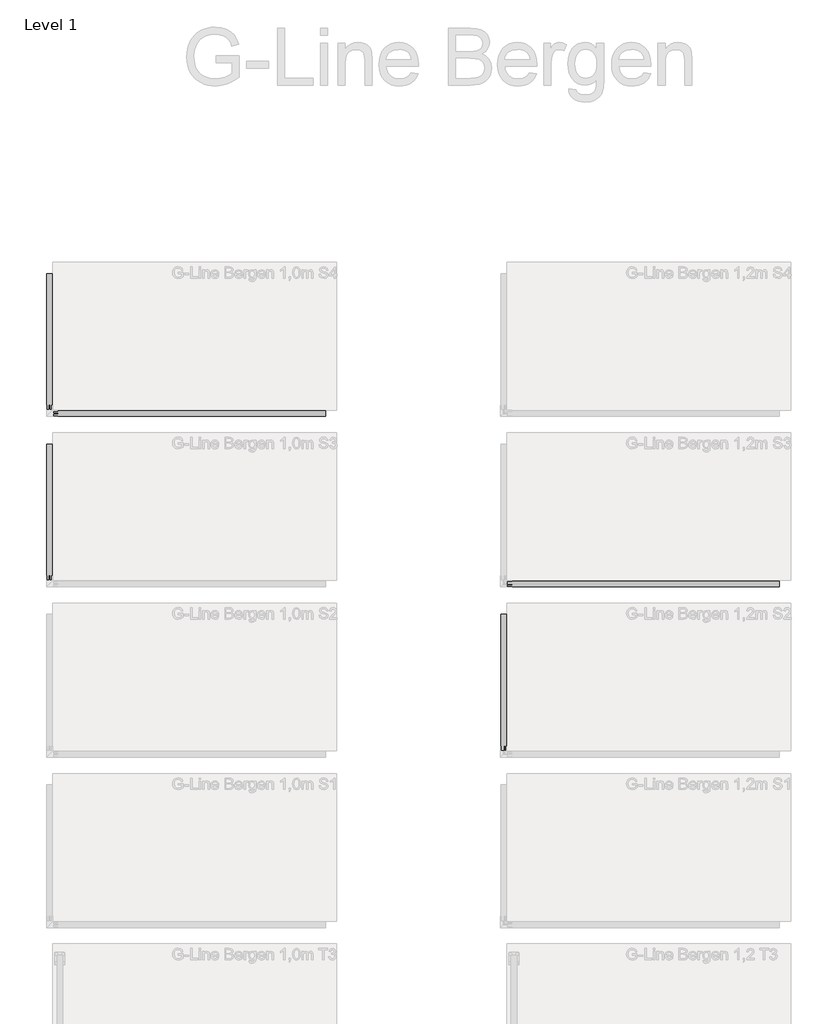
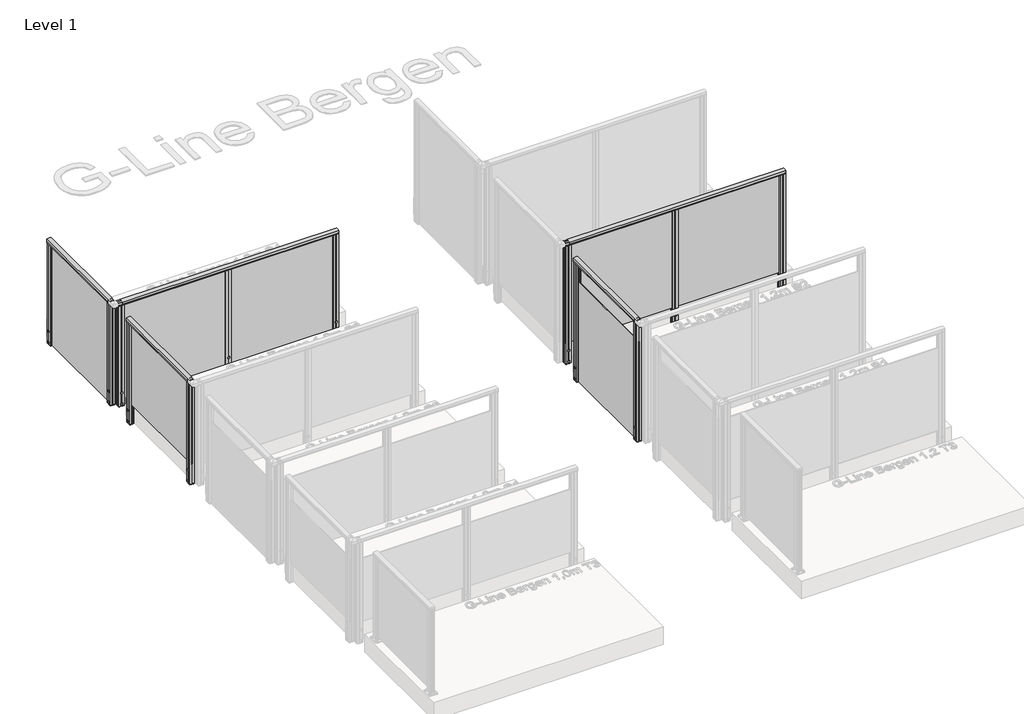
# One storey, part 28 of 66: 5 railings.
"""IFC4 building model written with IfcOpenShell, lengths in millimetres."""

from ifc_helpers import new_model, si_unit, point, frame, frame_2d, origin, place, context, project, spatial, polyline, circle_curve, trimmed, segment, composite_curve, outline, extrude, element, save

model = new_model("IFC4")

# Units and contexts
model_context = context("Model", 3, world=origin())
ifc_project = project(units=[si_unit("LENGTHUNIT", "METRE", prefix="MILLI")], contexts=[model_context])

# Site, building, storey
site = spatial("IfcSite", under=ifc_project)
building = spatial("IfcBuilding", under=site)
storey = spatial("IfcBuildingStorey", under=building, Name="Level 1", Elevation=0.0)

# Railings
placement = place(None, origin())
element("IfcRailing", 1, ObjectType="G-Line Bergen 1,0m S3", at=placement, inside=storey, context=model_context, shape_type="SweptSolid", body=[
    extrude(outline(composite_curve([segment(trimmed(circle_curve(frame_2d((942.6785502, 4465.8109342)), 57.3235687), [point((994.1390059, 4491.0658945))], [point((994.1342258, 4440.5462362))], False, "CARTESIAN"), True, "CONTINUOUS"), segment(polyline([(994.1342258, 4440.5462362), (967.0235023, 4440.5462362), (966.4415706, 4441.128168), (965.8194895, 4440.5060869), (957.2498847, 4440.5060869), (957.2498847, 4442.3110398), (980.4998829, 4442.3110398), (980.4998829, 4489.306086), (957.2498847, 4489.306086), (957.2498847, 4491.0658945), (965.9694895, 4491.0658945), (966.5842725, 4490.4511115), (967.1990555, 4491.0658945), (994.1390059, 4491.0658945)]), True, "CONTINUOUS")], self_intersect=False)), frame((0.0, 1523.8815979, 0.0), z_axis=(0.0, 1.0, 0.0), x_axis=(0.0, 0.0, 1.0)), (0.0, 0.0, 1.0), 1195.0),
    extrude(outline(polyline([(4462.1463105, 2718.8815979), (4470.9063105, 2718.8815979), (4470.9063105, 1523.8815979), (4462.1463105, 1523.8815979), (4462.1463105, 2718.8815979)])), frame((0.0, 0.0, 28.0), z_axis=(0.0, 0.0, 1.0), x_axis=(1.0, 0.0, 0.0)), (0.0, 0.0, 1.0), 952.0),
    extrude(outline(polyline([(4470.8721725, 1523.883191), (4470.8747497, 1541.3831908), (4462.1147498, 1541.3844809), (4462.1121726, 1523.8844811), (4444.0573652, 1523.88714), (4444.0616532, 1553.004127), (4444.9400753, 1553.8822904), (4444.021743, 1554.9201583), (4444.0260089, 1583.8871452), (4462.1210087, 1583.8844804), (4462.1184315, 1566.3844806), (4470.8784314, 1566.3831905), (4470.8810086, 1583.8831903), (4488.9859597, 1583.880524), (4488.9816865, 1554.8640485), (4487.9932969, 1553.87595), (4489.0214382, 1552.8475058), (4489.0171723, 1523.8805188), (4470.8721725, 1523.883191)])), frame((0.0, 0.0, -202.0233958), z_axis=(0.0, 0.0, 1.0), x_axis=(1.0, 0.0, 0.0)), (0.0, 0.0, 1.0), 2.0),
    extrude(outline(composite_curve([segment(trimmed(circle_curve(frame_2d((0.0, 12.0)), 12.0), [point((0.0, 23.9999999))], [point((0.0, 0.0))], False, "CARTESIAN"), True, "CONTINUOUS"), segment(trimmed(circle_curve(frame_2d((0.0, 12.0)), 12.0), [point((0.0, 0.0))], [point((0.0, 23.9999999))], False, "CARTESIAN"), True, "CONTINUOUS")], self_intersect=False)), frame((4444.0668454, 1565.8906355, -175.0), z_axis=(-0.9999999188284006, 0.0004029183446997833, 0.0), x_axis=(0.0, 0.0, -1.0)), (0.0, 0.0, 1.0), 3.0757477),
    extrude(outline(composite_curve([segment(trimmed(circle_curve(frame_2d((0.0, 12.0)), 12.0), [point((0.0, 23.9999999))], [point((0.0, 0.0))], False, "CARTESIAN"), True, "CONTINUOUS"), segment(trimmed(circle_curve(frame_2d((0.0, 12.0)), 12.0), [point((0.0, 0.0))], [point((0.0, 23.9999999))], False, "CARTESIAN"), True, "CONTINUOUS")], self_intersect=False)), frame((4444.0668454, 1565.8906355, -50.0), z_axis=(-0.9999999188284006, 0.0004029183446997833, 0.0), x_axis=(0.0, 0.0, -1.0)), (0.0, 0.0, 1.0), 3.0757477),
    extrude(outline(polyline([(4470.8721725, 1523.883191), (4470.8747497, 1541.3831908), (4462.1147498, 1541.3844809), (4462.1121726, 1523.8844811), (4444.0573652, 1523.88714), (4444.0616532, 1553.004127), (4444.9400753, 1553.8822904), (4444.021743, 1554.9201583), (4444.0260089, 1583.8871452), (4462.1210087, 1583.8844804), (4462.1184315, 1566.3844806), (4470.8784314, 1566.3831905), (4470.8810086, 1583.8831903), (4488.9859597, 1583.880524), (4488.9816865, 1554.8640485), (4487.9932969, 1553.87595), (4489.0214382, 1552.8475058), (4489.0171723, 1523.8805188), (4470.8721725, 1523.883191)]), holes=[polyline([(4446.0202949, 1562.6808129), (4446.0202949, 1545.0868512), (4487.0228863, 1545.0868512), (4487.0228863, 1562.6808129), (4446.0202949, 1562.6808129)]), polyline([(4472.878181, 1581.8808127), (4472.878181, 1564.682896), (4487.0257139, 1564.682896), (4487.0257139, 1581.8808127), (4472.878181, 1581.8808127)]), polyline([(4446.0202949, 1581.884775), (4446.0202949, 1564.6868513), (4460.1207142, 1564.6868513), (4460.1207142, 1581.884775), (4446.0202949, 1581.884775)]), polyline([(4472.872467, 1543.0808132), (4472.872467, 1525.8828965), (4487.0199999, 1525.8828965), (4487.0199999, 1543.0808132), (4472.872467, 1543.0808132)]), polyline([(4445.9674673, 1543.0847754), (4445.9674673, 1525.8868587), (4460.1150002, 1525.8868587), (4460.1150002, 1543.0847754), (4445.9674673, 1543.0847754)])]), frame((0.0, 0.0, -200.0), z_axis=(0.0, 0.0, 1.0), x_axis=(1.0, 0.0, 0.0)), (0.0, 0.0, 1.0), 1181.0),
    extrude(outline(polyline([(4470.8721725, 2658.883191), (4470.8747497, 2676.3831908), (4462.1147498, 2676.3844809), (4462.1121726, 2658.8844811), (4444.0573652, 2658.88714), (4444.0616532, 2688.004127), (4444.9400753, 2688.8822904), (4444.021743, 2689.9201583), (4444.0260089, 2718.8871452), (4462.1210087, 2718.8844804), (4462.1184315, 2701.3844806), (4470.8784314, 2701.3831905), (4470.8810086, 2718.8831903), (4488.9859597, 2718.880524), (4488.9816865, 2689.8640485), (4487.9932969, 2688.87595), (4489.0214382, 2687.8475058), (4489.0171723, 2658.8805188), (4470.8721725, 2658.883191)])), frame((0.0, 0.0, -202.0233958), z_axis=(0.0, 0.0, 1.0), x_axis=(1.0, 0.0, 0.0)), (0.0, 0.0, 1.0), 2.0),
    extrude(outline(composite_curve([segment(trimmed(circle_curve(frame_2d((0.0, 12.0)), 12.0), [point((0.0, 23.9999999))], [point((0.0, 0.0))], False, "CARTESIAN"), True, "CONTINUOUS"), segment(trimmed(circle_curve(frame_2d((0.0, 12.0)), 12.0), [point((0.0, 0.0))], [point((0.0, 23.9999999))], False, "CARTESIAN"), True, "CONTINUOUS")], self_intersect=False)), frame((4444.0668454, 2700.8906355, -175.0), z_axis=(-0.9999999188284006, 0.0004029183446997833, 0.0), x_axis=(0.0, 0.0, -1.0)), (0.0, 0.0, 1.0), 3.0757477),
    extrude(outline(composite_curve([segment(trimmed(circle_curve(frame_2d((0.0, 12.0)), 12.0), [point((0.0, 23.9999999))], [point((0.0, 0.0))], False, "CARTESIAN"), True, "CONTINUOUS"), segment(trimmed(circle_curve(frame_2d((0.0, 12.0)), 12.0), [point((0.0, 0.0))], [point((0.0, 23.9999999))], False, "CARTESIAN"), True, "CONTINUOUS")], self_intersect=False)), frame((4444.0668454, 2700.8906355, -50.0), z_axis=(-0.9999999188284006, 0.0004029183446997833, 0.0), x_axis=(0.0, 0.0, -1.0)), (0.0, 0.0, 1.0), 3.0757477),
    extrude(outline(polyline([(4470.8721725, 2658.883191), (4470.8747497, 2676.3831908), (4462.1147498, 2676.3844809), (4462.1121726, 2658.8844811), (4444.0573652, 2658.88714), (4444.0616532, 2688.004127), (4444.9400753, 2688.8822904), (4444.021743, 2689.9201583), (4444.0260089, 2718.8871452), (4462.1210087, 2718.8844804), (4462.1184315, 2701.3844806), (4470.8784314, 2701.3831905), (4470.8810086, 2718.8831903), (4488.9859597, 2718.880524), (4488.9816865, 2689.8640485), (4487.9932969, 2688.87595), (4489.0214382, 2687.8475058), (4489.0171723, 2658.8805188), (4470.8721725, 2658.883191)]), holes=[polyline([(4446.0202949, 2697.6808129), (4446.0202949, 2680.0868512), (4487.0228863, 2680.0868512), (4487.0228863, 2697.6808129), (4446.0202949, 2697.6808129)]), polyline([(4472.878181, 2716.8808127), (4472.878181, 2699.682896), (4487.0257139, 2699.682896), (4487.0257139, 2716.8808127), (4472.878181, 2716.8808127)]), polyline([(4446.0202949, 2716.884775), (4446.0202949, 2699.6868513), (4460.1207142, 2699.6868513), (4460.1207142, 2716.884775), (4446.0202949, 2716.884775)]), polyline([(4472.872467, 2678.0808132), (4472.872467, 2660.8828965), (4487.0199999, 2660.8828965), (4487.0199999, 2678.0808132), (4472.872467, 2678.0808132)]), polyline([(4445.9674673, 2678.0847754), (4445.9674673, 2660.8868587), (4460.1150002, 2660.8868587), (4460.1150002, 2678.0847754), (4445.9674673, 2678.0847754)])]), frame((0.0, 0.0, -200.0), z_axis=(0.0, 0.0, 1.0), x_axis=(1.0, 0.0, 0.0)), (0.0, 0.0, 1.0), 1181.0),
])
element("IfcRailing", 2, ObjectType="G-Line Bergen 1,0m S4", at=placement, inside=storey, context=model_context, shape_type="SweptSolid", body=[
    extrude(outline(composite_curve([segment(trimmed(circle_curve(frame_2d((942.6785502, 4465.8109342)), 57.3235687), [point((994.1390059, 4491.0658945))], [point((994.1342258, 4440.5462362))], False, "CARTESIAN"), True, "CONTINUOUS"), segment(polyline([(994.1342258, 4440.5462362), (967.0235023, 4440.5462362), (966.4415706, 4441.128168), (965.8194895, 4440.5060869), (957.2498847, 4440.5060869), (957.2498847, 4442.3110398), (980.4998829, 4442.3110398), (980.4998829, 4489.306086), (957.2498847, 4489.306086), (957.2498847, 4491.0658945), (965.9694895, 4491.0658945), (966.5842725, 4490.4511115), (967.1990555, 4491.0658945), (994.1390059, 4491.0658945)]), True, "CONTINUOUS")], self_intersect=False)), frame((0.0, 3023.8815979, 0.0), z_axis=(0.0, 1.0, 0.0), x_axis=(0.0, 0.0, 1.0)), (0.0, 0.0, 1.0), 1195.0),
    extrude(outline(polyline([(4465.6306934, 4218.8815979), (4467.4943763, 4218.8815979), (4467.4943763, 3023.8815979), (4465.6306934, 3023.8815979), (4465.6306934, 4218.8815979)])), frame((0.0, 0.0, -200.0), z_axis=(0.0, 0.0, 1.0), x_axis=(1.0, 0.0, 0.0)), (0.0, 0.0, 1.0), 1.1703418),
    extrude(outline(polyline([(4462.1463105, 4218.8815979), (4470.9063105, 4218.8815979), (4470.9063105, 3023.8815979), (4462.1463105, 3023.8815979), (4462.1463105, 4218.8815979)])), frame((0.0, 0.0, -200.0), z_axis=(0.0, 0.0, 1.0), x_axis=(1.0, 0.0, 0.0)), (0.0, 0.0, 1.0), 1180.0),
    extrude(outline(polyline([(4470.8721725, 3023.883191), (4470.8747497, 3041.3831908), (4462.1147498, 3041.3844809), (4462.1121726, 3023.8844811), (4444.0573652, 3023.88714), (4444.0616532, 3053.004127), (4444.9400753, 3053.8822904), (4444.021743, 3054.9201583), (4444.0260089, 3083.8871452), (4462.1210087, 3083.8844804), (4462.1184315, 3066.3844806), (4470.8784314, 3066.3831905), (4470.8810086, 3083.8831903), (4488.9859597, 3083.880524), (4488.9816865, 3054.8640485), (4487.9932969, 3053.87595), (4489.0214382, 3052.8475058), (4489.0171723, 3023.8805188), (4470.8721725, 3023.883191)])), frame((0.0, 0.0, -202.0233958), z_axis=(0.0, 0.0, 1.0), x_axis=(1.0, 0.0, 0.0)), (0.0, 0.0, 1.0), 2.0),
    extrude(outline(composite_curve([segment(trimmed(circle_curve(frame_2d((0.0, 12.0)), 12.0), [point((0.0, 23.9999999))], [point((0.0, 0.0))], False, "CARTESIAN"), True, "CONTINUOUS"), segment(trimmed(circle_curve(frame_2d((0.0, 12.0)), 12.0), [point((0.0, 0.0))], [point((0.0, 23.9999999))], False, "CARTESIAN"), True, "CONTINUOUS")], self_intersect=False)), frame((4444.0668454, 3065.8906355, -175.0), z_axis=(-0.9999999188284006, 0.0004029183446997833, 0.0), x_axis=(0.0, 0.0, -1.0)), (0.0, 0.0, 1.0), 3.0757477),
    extrude(outline(composite_curve([segment(trimmed(circle_curve(frame_2d((0.0, 12.0)), 12.0), [point((0.0, 23.9999999))], [point((0.0, 0.0))], False, "CARTESIAN"), True, "CONTINUOUS"), segment(trimmed(circle_curve(frame_2d((0.0, 12.0)), 12.0), [point((0.0, 0.0))], [point((0.0, 23.9999999))], False, "CARTESIAN"), True, "CONTINUOUS")], self_intersect=False)), frame((4444.0668454, 3065.8906355, -50.0), z_axis=(-0.9999999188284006, 0.0004029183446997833, 0.0), x_axis=(0.0, 0.0, -1.0)), (0.0, 0.0, 1.0), 3.0757477),
    extrude(outline(polyline([(4470.8721725, 3023.883191), (4470.8747497, 3041.3831908), (4462.1147498, 3041.3844809), (4462.1121726, 3023.8844811), (4444.0573652, 3023.88714), (4444.0616532, 3053.004127), (4444.9400753, 3053.8822904), (4444.021743, 3054.9201583), (4444.0260089, 3083.8871452), (4462.1210087, 3083.8844804), (4462.1184315, 3066.3844806), (4470.8784314, 3066.3831905), (4470.8810086, 3083.8831903), (4488.9859597, 3083.880524), (4488.9816865, 3054.8640485), (4487.9932969, 3053.87595), (4489.0214382, 3052.8475058), (4489.0171723, 3023.8805188), (4470.8721725, 3023.883191)]), holes=[polyline([(4446.0202949, 3062.6808129), (4446.0202949, 3045.0868512), (4487.0228863, 3045.0868512), (4487.0228863, 3062.6808129), (4446.0202949, 3062.6808129)]), polyline([(4472.878181, 3081.8808127), (4472.878181, 3064.682896), (4487.0257139, 3064.682896), (4487.0257139, 3081.8808127), (4472.878181, 3081.8808127)]), polyline([(4446.0202949, 3081.884775), (4446.0202949, 3064.6868513), (4460.1207142, 3064.6868513), (4460.1207142, 3081.884775), (4446.0202949, 3081.884775)]), polyline([(4472.872467, 3043.0808132), (4472.872467, 3025.8828965), (4487.0199999, 3025.8828965), (4487.0199999, 3043.0808132), (4472.872467, 3043.0808132)]), polyline([(4445.9674673, 3043.0847754), (4445.9674673, 3025.8868587), (4460.1150002, 3025.8868587), (4460.1150002, 3043.0847754), (4445.9674673, 3043.0847754)])]), frame((0.0, 0.0, -200.0), z_axis=(0.0, 0.0, 1.0), x_axis=(1.0, 0.0, 0.0)), (0.0, 0.0, 1.0), 1181.0),
    extrude(outline(polyline([(4470.8721725, 4158.883191), (4470.8747497, 4176.3831908), (4462.1147498, 4176.3844809), (4462.1121726, 4158.8844811), (4444.0573652, 4158.88714), (4444.0616532, 4188.004127), (4444.9400753, 4188.8822904), (4444.021743, 4189.9201583), (4444.0260089, 4218.8871452), (4462.1210087, 4218.8844804), (4462.1184315, 4201.3844806), (4470.8784314, 4201.3831905), (4470.8810086, 4218.8831903), (4488.9859597, 4218.880524), (4488.9816865, 4189.8640485), (4487.9932969, 4188.87595), (4489.0214382, 4187.8475058), (4489.0171723, 4158.8805188), (4470.8721725, 4158.883191)])), frame((0.0, 0.0, -202.0233958), z_axis=(0.0, 0.0, 1.0), x_axis=(1.0, 0.0, 0.0)), (0.0, 0.0, 1.0), 2.0),
    extrude(outline(composite_curve([segment(trimmed(circle_curve(frame_2d((0.0, 12.0)), 12.0), [point((0.0, 23.9999999))], [point((0.0, 0.0))], False, "CARTESIAN"), True, "CONTINUOUS"), segment(trimmed(circle_curve(frame_2d((0.0, 12.0)), 12.0), [point((0.0, 0.0))], [point((0.0, 23.9999999))], False, "CARTESIAN"), True, "CONTINUOUS")], self_intersect=False)), frame((4444.0668454, 4200.8906355, -175.0), z_axis=(-0.9999999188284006, 0.0004029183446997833, 0.0), x_axis=(0.0, 0.0, -1.0)), (0.0, 0.0, 1.0), 3.0757477),
    extrude(outline(composite_curve([segment(trimmed(circle_curve(frame_2d((0.0, 12.0)), 12.0), [point((0.0, 23.9999999))], [point((0.0, 0.0))], False, "CARTESIAN"), True, "CONTINUOUS"), segment(trimmed(circle_curve(frame_2d((0.0, 12.0)), 12.0), [point((0.0, 0.0))], [point((0.0, 23.9999999))], False, "CARTESIAN"), True, "CONTINUOUS")], self_intersect=False)), frame((4444.0668454, 4200.8906355, -50.0), z_axis=(-0.9999999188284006, 0.0004029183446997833, 0.0), x_axis=(0.0, 0.0, -1.0)), (0.0, 0.0, 1.0), 3.0757477),
    extrude(outline(polyline([(4470.8721725, 4158.883191), (4470.8747497, 4176.3831908), (4462.1147498, 4176.3844809), (4462.1121726, 4158.8844811), (4444.0573652, 4158.88714), (4444.0616532, 4188.004127), (4444.9400753, 4188.8822904), (4444.021743, 4189.9201583), (4444.0260089, 4218.8871452), (4462.1210087, 4218.8844804), (4462.1184315, 4201.3844806), (4470.8784314, 4201.3831905), (4470.8810086, 4218.8831903), (4488.9859597, 4218.880524), (4488.9816865, 4189.8640485), (4487.9932969, 4188.87595), (4489.0214382, 4187.8475058), (4489.0171723, 4158.8805188), (4470.8721725, 4158.883191)]), holes=[polyline([(4446.0202949, 4197.6808129), (4446.0202949, 4180.0868512), (4487.0228863, 4180.0868512), (4487.0228863, 4197.6808129), (4446.0202949, 4197.6808129)]), polyline([(4472.878181, 4216.8808127), (4472.878181, 4199.682896), (4487.0257139, 4199.682896), (4487.0257139, 4216.8808127), (4472.878181, 4216.8808127)]), polyline([(4446.0202949, 4216.884775), (4446.0202949, 4199.6868513), (4460.1207142, 4199.6868513), (4460.1207142, 4216.884775), (4446.0202949, 4216.884775)]), polyline([(4472.872467, 4178.0808132), (4472.872467, 4160.8828965), (4487.0199999, 4160.8828965), (4487.0199999, 4178.0808132), (4472.872467, 4178.0808132)]), polyline([(4445.9674673, 4178.0847754), (4445.9674673, 4160.8868587), (4460.1150002, 4160.8868587), (4460.1150002, 4178.0847754), (4445.9674673, 4178.0847754)])]), frame((0.0, 0.0, -200.0), z_axis=(0.0, 0.0, 1.0), x_axis=(1.0, 0.0, 0.0)), (0.0, 0.0, 1.0), 1181.0),
])
element("IfcRailing", 3, ObjectType="G-Line Bergen 1,0m S4", at=placement, inside=storey, context=model_context, shape_type="SweptSolid", body=[
    extrude(outline(composite_curve([segment(polyline([(3013.4211819, 994.1390059), (3013.4211819, 967.1990555), (3012.8063989, 966.5842725), (3013.4211819, 965.9694895), (3013.4211819, 957.2498847), (3011.6613734, 957.2498847), (3011.6613734, 980.4998829), (2964.6663272, 980.4998829), (2964.6663272, 957.2498847), (2962.8613743, 957.2498847), (2962.8613743, 965.8194895), (2963.4834554, 966.4415706), (2962.9015237, 967.0235023), (2962.9015237, 994.1342258)]), True, "CONTINUOUS"), segment(trimmed(circle_curve(frame_2d((2988.1662216, 942.6785502)), 57.3235687), [point((2962.9015237, 994.1342258))], [point((3013.4211819, 994.1390059))], False, "CARTESIAN"), True, "CONTINUOUS")], self_intersect=False)), frame((4501.5263105, 0.0, 0.0), z_axis=(1.0, 0.0, 0.0), x_axis=(0.0, 1.0, 0.0)), (0.0, 0.0, 1.0), 2395.0),
    extrude(outline(polyline([(4501.5263105, 2987.9859808), (4501.5263105, 2989.8496637), (6896.5263105, 2989.8496637), (6896.5263105, 2987.9859808), (4501.5263105, 2987.9859808)])), frame((0.0, 0.0, -200.0), z_axis=(0.0, 0.0, 1.0), x_axis=(1.0, 0.0, 0.0)), (0.0, 0.0, 1.0), 1.1703418),
    extrude(outline(polyline([(4501.5263105, 2984.5015979), (4501.5263105, 2993.2615979), (6896.5263105, 2993.2615979), (6896.5263105, 2984.5015979), (4501.5263105, 2984.5015979)])), frame((0.0, 0.0, -200.0), z_axis=(0.0, 0.0, 1.0), x_axis=(1.0, 0.0, 0.0)), (0.0, 0.0, 1.0), 1180.0),
    extrude(outline(polyline([(5729.0247174, 2993.2274599), (5711.5247176, 2993.2300371), (5711.5234275, 2984.4700372), (5729.0234273, 2984.46746), (5729.0207684, 2966.4126526), (5699.9037815, 2966.4169406), (5699.025618, 2967.2953627), (5697.9877501, 2966.3770304), (5669.0207632, 2966.3812963), (5669.023428, 2984.4762961), (5686.5234278, 2984.4737189), (5686.5247179, 2993.2337188), (5669.0247181, 2993.236296), (5669.0273844, 3011.3412471), (5698.0438599, 3011.3369739), (5699.0319584, 3010.3485843), (5700.0604026, 3011.3767256), (5729.0273896, 3011.3724597), (5729.0247174, 2993.2274599)])), frame((0.0, 0.0, -202.0233958), z_axis=(0.0, 0.0, 1.0), x_axis=(1.0, 0.0, 0.0)), (0.0, 0.0, 1.0), 2.0),
    extrude(outline(composite_curve([segment(trimmed(circle_curve(frame_2d((0.0, 12.0000001)), 12.0), [point((0.0, 24.0))], [point((0.0, 0.0))], False, "CARTESIAN"), True, "CONTINUOUS"), segment(trimmed(circle_curve(frame_2d((0.0, 12.0000001)), 12.0), [point((0.0, 0.0))], [point((0.0, 24.0))], False, "CARTESIAN"), True, "CONTINUOUS")], self_intersect=False)), frame((5687.0160336, 2963.3463854, -175.0), z_axis=(0.00040291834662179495, 0.9999999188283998, 0.0), x_axis=(0.0, 0.0, 1.0)), (0.0, 0.0, 1.0), 3.0757477),
    extrude(outline(composite_curve([segment(trimmed(circle_curve(frame_2d((0.0, 12.0000001)), 12.0), [point((0.0, 24.0))], [point((0.0, 0.0))], False, "CARTESIAN"), True, "CONTINUOUS"), segment(trimmed(circle_curve(frame_2d((0.0, 12.0000001)), 12.0), [point((0.0, 0.0))], [point((0.0, 24.0))], False, "CARTESIAN"), True, "CONTINUOUS")], self_intersect=False)), frame((5687.0160336, 2963.3463854, -50.0), z_axis=(0.00040291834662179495, 0.9999999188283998, 0.0), x_axis=(0.0, 0.0, 1.0)), (0.0, 0.0, 1.0), 3.0757477),
    extrude(outline(polyline([(5729.0247174, 2993.2274599), (5711.5247176, 2993.2300371), (5711.5234275, 2984.4700372), (5729.0234273, 2984.46746), (5729.0207684, 2966.4126526), (5699.9037815, 2966.4169406), (5699.025618, 2967.2953627), (5697.9877501, 2966.3770304), (5669.0207632, 2966.3812963), (5669.023428, 2984.4762961), (5686.5234278, 2984.4737189), (5686.5247179, 2993.2337188), (5669.0247181, 2993.236296), (5669.0273844, 3011.3412471), (5698.0438599, 3011.3369739), (5699.0319584, 3010.3485843), (5700.0604026, 3011.3767256), (5729.0273896, 3011.3724597), (5729.0247174, 2993.2274599)]), holes=[polyline([(5690.2270955, 2968.3755823), (5707.8210573, 2968.3755823), (5707.8210573, 3009.3781738), (5690.2270955, 3009.3781738), (5690.2270955, 2968.3755823)]), polyline([(5671.0270957, 2995.2334684), (5688.2250124, 2995.2334684), (5688.2250124, 3009.3810013), (5671.0270957, 3009.3810013), (5671.0270957, 2995.2334684)]), polyline([(5671.0231335, 2968.3755823), (5688.2210571, 2968.3755823), (5688.2210571, 2982.4760016), (5671.0231335, 2982.4760016), (5671.0231335, 2968.3755823)]), polyline([(5709.8270953, 2995.2277544), (5727.025012, 2995.2277544), (5727.025012, 3009.3752873), (5709.8270953, 3009.3752873), (5709.8270953, 2995.2277544)]), polyline([(5709.823133, 2968.3227547), (5727.0210497, 2968.3227547), (5727.0210497, 2982.4702876), (5709.823133, 2982.4702876), (5709.823133, 2968.3227547)])]), frame((0.0, 0.0, -200.0), z_axis=(0.0, 0.0, 1.0), x_axis=(1.0, 0.0, 0.0)), (0.0, 0.0, 1.0), 1181.0),
    extrude(outline(polyline([(6896.5247174, 2993.2274599), (6879.0247176, 2993.2300371), (6879.0234275, 2984.4700372), (6896.5234273, 2984.46746), (6896.5207684, 2966.4126526), (6867.4037815, 2966.4169406), (6866.525618, 2967.2953627), (6865.4877501, 2966.3770304), (6836.5207632, 2966.3812963), (6836.523428, 2984.4762961), (6854.0234278, 2984.4737189), (6854.0247179, 2993.2337188), (6836.5247181, 2993.236296), (6836.5273844, 3011.3412471), (6865.5438599, 3011.3369739), (6866.5319584, 3010.3485843), (6867.5604026, 3011.3767256), (6896.5273896, 3011.3724597), (6896.5247174, 2993.2274599)])), frame((0.0, 0.0, -202.0233958), z_axis=(0.0, 0.0, 1.0), x_axis=(1.0, 0.0, 0.0)), (0.0, 0.0, 1.0), 2.0),
    extrude(outline(composite_curve([segment(trimmed(circle_curve(frame_2d((0.0, 12.0000001)), 12.0), [point((0.0, 24.0))], [point((0.0, 0.0))], False, "CARTESIAN"), True, "CONTINUOUS"), segment(trimmed(circle_curve(frame_2d((0.0, 12.0000001)), 12.0), [point((0.0, 0.0))], [point((0.0, 24.0))], False, "CARTESIAN"), True, "CONTINUOUS")], self_intersect=False)), frame((6854.5160336, 2963.3463854, -175.0), z_axis=(0.00040291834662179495, 0.9999999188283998, 0.0), x_axis=(0.0, 0.0, 1.0)), (0.0, 0.0, 1.0), 3.0757477),
    extrude(outline(composite_curve([segment(trimmed(circle_curve(frame_2d((0.0, 12.0000001)), 12.0), [point((0.0, 24.0))], [point((0.0, 0.0))], False, "CARTESIAN"), True, "CONTINUOUS"), segment(trimmed(circle_curve(frame_2d((0.0, 12.0000001)), 12.0), [point((0.0, 0.0))], [point((0.0, 24.0))], False, "CARTESIAN"), True, "CONTINUOUS")], self_intersect=False)), frame((6854.5160336, 2963.3463854, -50.0), z_axis=(0.00040291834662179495, 0.9999999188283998, 0.0), x_axis=(0.0, 0.0, 1.0)), (0.0, 0.0, 1.0), 3.0757477),
    extrude(outline(polyline([(6896.5247174, 2993.2274599), (6879.0247176, 2993.2300371), (6879.0234275, 2984.4700372), (6896.5234273, 2984.46746), (6896.5207684, 2966.4126526), (6867.4037815, 2966.4169406), (6866.525618, 2967.2953627), (6865.4877501, 2966.3770304), (6836.5207632, 2966.3812963), (6836.523428, 2984.4762961), (6854.0234278, 2984.4737189), (6854.0247179, 2993.2337188), (6836.5247181, 2993.236296), (6836.5273844, 3011.3412471), (6865.5438599, 3011.3369739), (6866.5319584, 3010.3485843), (6867.5604026, 3011.3767256), (6896.5273896, 3011.3724597), (6896.5247174, 2993.2274599)]), holes=[polyline([(6857.7270955, 2968.3755823), (6875.3210573, 2968.3755823), (6875.3210573, 3009.3781737), (6857.7270955, 3009.3781737), (6857.7270955, 2968.3755823)]), polyline([(6838.5270957, 2995.2334684), (6855.7250124, 2995.2334684), (6855.7250124, 3009.3810013), (6838.5270957, 3009.3810013), (6838.5270957, 2995.2334684)]), polyline([(6838.5231335, 2968.3755823), (6855.7210571, 2968.3755823), (6855.7210571, 2982.4760016), (6838.5231335, 2982.4760016), (6838.5231335, 2968.3755823)]), polyline([(6877.3270953, 2995.2277544), (6894.525012, 2995.2277544), (6894.525012, 3009.3752873), (6877.3270953, 3009.3752873), (6877.3270953, 2995.2277544)]), polyline([(6877.323133, 2968.3227547), (6894.5210497, 2968.3227547), (6894.5210497, 2982.4702876), (6877.323133, 2982.4702876), (6877.323133, 2968.3227547)])]), frame((0.0, 0.0, -200.0), z_axis=(0.0, 0.0, 1.0), x_axis=(1.0, 0.0, 0.0)), (0.0, 0.0, 1.0), 1181.0),
    extrude(outline(polyline([(4561.5247174, 2993.2274599), (4544.0247176, 2993.2300371), (4544.0234275, 2984.4700372), (4561.5234273, 2984.46746), (4561.5207684, 2966.4126526), (4532.4037815, 2966.4169406), (4531.525618, 2967.2953627), (4530.4877501, 2966.3770304), (4501.5207632, 2966.3812963), (4501.523428, 2984.4762961), (4519.0234278, 2984.4737189), (4519.0247179, 2993.2337188), (4501.5247181, 2993.236296), (4501.5273844, 3011.3412471), (4530.5438599, 3011.3369739), (4531.5319584, 3010.3485843), (4532.5604026, 3011.3767256), (4561.5273896, 3011.3724597), (4561.5247174, 2993.2274599)])), frame((0.0, 0.0, -202.0233958), z_axis=(0.0, 0.0, 1.0), x_axis=(1.0, 0.0, 0.0)), (0.0, 0.0, 1.0), 2.0),
    extrude(outline(composite_curve([segment(trimmed(circle_curve(frame_2d((0.0, 12.0000001)), 12.0), [point((0.0, 24.0))], [point((0.0, 0.0))], False, "CARTESIAN"), True, "CONTINUOUS"), segment(trimmed(circle_curve(frame_2d((0.0, 12.0000001)), 12.0), [point((0.0, 0.0))], [point((0.0, 24.0))], False, "CARTESIAN"), True, "CONTINUOUS")], self_intersect=False)), frame((4519.5160336, 2963.3463854, -175.0), z_axis=(0.00040291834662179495, 0.9999999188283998, 0.0), x_axis=(0.0, 0.0, 1.0)), (0.0, 0.0, 1.0), 3.0757477),
    extrude(outline(composite_curve([segment(trimmed(circle_curve(frame_2d((0.0, 12.0000001)), 12.0), [point((0.0, 24.0))], [point((0.0, 0.0))], False, "CARTESIAN"), True, "CONTINUOUS"), segment(trimmed(circle_curve(frame_2d((0.0, 12.0000001)), 12.0), [point((0.0, 0.0))], [point((0.0, 24.0))], False, "CARTESIAN"), True, "CONTINUOUS")], self_intersect=False)), frame((4519.5160336, 2963.3463854, -50.0), z_axis=(0.00040291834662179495, 0.9999999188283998, 0.0), x_axis=(0.0, 0.0, 1.0)), (0.0, 0.0, 1.0), 3.0757477),
    extrude(outline(polyline([(4561.5247174, 2993.2274599), (4544.0247176, 2993.2300371), (4544.0234275, 2984.4700372), (4561.5234273, 2984.46746), (4561.5207684, 2966.4126526), (4532.4037815, 2966.4169406), (4531.525618, 2967.2953627), (4530.4877501, 2966.3770304), (4501.5207632, 2966.3812963), (4501.523428, 2984.4762961), (4519.0234278, 2984.4737189), (4519.0247179, 2993.2337188), (4501.5247181, 2993.236296), (4501.5273844, 3011.3412471), (4530.5438599, 3011.3369739), (4531.5319584, 3010.3485843), (4532.5604026, 3011.3767256), (4561.5273896, 3011.3724597), (4561.5247174, 2993.2274599)]), holes=[polyline([(4522.7270955, 2968.3755823), (4540.3210573, 2968.3755823), (4540.3210573, 3009.3781738), (4522.7270955, 3009.3781738), (4522.7270955, 2968.3755823)]), polyline([(4503.5270957, 2995.2334684), (4520.7250124, 2995.2334684), (4520.7250124, 3009.3810013), (4503.5270957, 3009.3810013), (4503.5270957, 2995.2334684)]), polyline([(4503.5231335, 2968.3755823), (4520.7210571, 2968.3755823), (4520.7210571, 2982.4760016), (4503.5231335, 2982.4760016), (4503.5231335, 2968.3755823)]), polyline([(4542.3270953, 2995.2277544), (4559.525012, 2995.2277544), (4559.525012, 3009.3752873), (4542.3270953, 3009.3752873), (4542.3270953, 2995.2277544)]), polyline([(4542.323133, 2968.3227547), (4559.5210497, 2968.3227547), (4559.5210497, 2982.4702876), (4542.323133, 2982.4702876), (4542.323133, 2968.3227547)])]), frame((0.0, 0.0, -200.0), z_axis=(0.0, 0.0, 1.0), x_axis=(1.0, 0.0, 0.0)), (0.0, 0.0, 1.0), 1181.0),
])
element("IfcRailing", 4, ObjectType="G-Line Bergen 1,2m S2", at=placement, inside=storey, context=model_context, shape_type="SweptSolid", body=[
    extrude(outline(composite_curve([segment(trimmed(circle_curve(frame_2d((1142.6785502, 8465.8109342)), 57.3235687), [point((1194.1390059, 8491.0658945))], [point((1194.1342258, 8440.5462362))], False, "CARTESIAN"), True, "CONTINUOUS"), segment(polyline([(1194.1342258, 8440.5462362), (1167.0235023, 8440.5462362), (1166.4415706, 8441.128168), (1165.8194895, 8440.5060869), (1157.2498847, 8440.5060869), (1157.2498847, 8442.3110398), (1180.4998829, 8442.3110398), (1180.4998829, 8489.306086), (1157.2498847, 8489.306086), (1157.2498847, 8491.0658945), (1165.9694895, 8491.0658945), (1166.5842725, 8490.4511115), (1167.1990555, 8491.0658945), (1194.1390059, 8491.0658945)]), True, "CONTINUOUS")], self_intersect=False)), frame((0.0, 23.8815979, 0.0), z_axis=(0.0, 1.0, 0.0), x_axis=(0.0, 0.0, 1.0)), (0.0, 0.0, 1.0), 1195.0),
    extrude(outline(polyline([(8465.6306934, 1218.8815979), (8467.4943763, 1218.8815979), (8467.4943763, 23.8815979), (8465.6306934, 23.8815979), (8465.6306934, 1218.8815979)])), frame((0.0, 0.0, -200.0), z_axis=(0.0, 0.0, 1.0), x_axis=(1.0, 0.0, 0.0)), (0.0, 0.0, 1.0), 1.1703418),
    extrude(outline(polyline([(8462.1463105, 1218.8815979), (8470.9063105, 1218.8815979), (8470.9063105, 23.8815979), (8462.1463105, 23.8815979), (8462.1463105, 1218.8815979)])), frame((0.0, 0.0, -200.0), z_axis=(0.0, 0.0, 1.0), x_axis=(1.0, 0.0, 0.0)), (0.0, 0.0, 1.0), 1150.0),
    extrude(outline(polyline([(8470.8721725, 23.883191), (8470.8747497, 41.3831908), (8462.1147498, 41.3844809), (8462.1121726, 23.8844811), (8444.0573652, 23.88714), (8444.0616532, 53.004127), (8444.9400753, 53.8822904), (8444.021743, 54.9201583), (8444.0260089, 83.8871452), (8462.1210087, 83.8844804), (8462.1184315, 66.3844806), (8470.8784314, 66.3831905), (8470.8810086, 83.8831903), (8488.9859597, 83.880524), (8488.9816865, 54.8640485), (8487.9932969, 53.87595), (8489.0214382, 52.8475058), (8489.0171723, 23.8805188), (8470.8721725, 23.883191)]), holes=[polyline([(8446.0202949, 62.6808129), (8446.0202949, 45.0868512), (8487.0228863, 45.0868512), (8487.0228863, 62.6808129), (8446.0202949, 62.6808129)]), polyline([(8472.878181, 81.8808127), (8472.878181, 64.682896), (8487.0257139, 64.682896), (8487.0257139, 81.8808127), (8472.878181, 81.8808127)]), polyline([(8446.0202949, 81.884775), (8446.0202949, 64.6868513), (8460.1207142, 64.6868513), (8460.1207142, 81.884775), (8446.0202949, 81.884775)]), polyline([(8472.872467, 43.0808132), (8472.872467, 25.8828965), (8487.0199999, 25.8828965), (8487.0199999, 43.0808132), (8472.872467, 43.0808132)]), polyline([(8445.9674673, 43.0847754), (8445.9674673, 25.8868587), (8460.1150002, 25.8868587), (8460.1150002, 43.0847754), (8445.9674673, 43.0847754)])]), frame((0.0, 0.0, -200.0), z_axis=(0.0, 0.0, 1.0), x_axis=(1.0, 0.0, 0.0)), (0.0, 0.0, 1.0), 1381.0),
    extrude(outline(polyline([(8470.8721725, 23.883191), (8470.8747497, 41.3831908), (8462.1147498, 41.3844809), (8462.1121726, 23.8844811), (8444.0573652, 23.88714), (8444.0616532, 53.004127), (8444.9400753, 53.8822904), (8444.021743, 54.9201583), (8444.0260089, 83.8871452), (8462.1210087, 83.8844804), (8462.1184315, 66.3844806), (8470.8784314, 66.3831905), (8470.8810086, 83.8831903), (8488.9859597, 83.880524), (8488.9816865, 54.8640485), (8487.9932969, 53.87595), (8489.0214382, 52.8475058), (8489.0171723, 23.8805188), (8470.8721725, 23.883191)])), frame((0.0, 0.0, -202.0233958), z_axis=(0.0, 0.0, 1.0), x_axis=(1.0, 0.0, 0.0)), (0.0, 0.0, 1.0), 2.0),
    extrude(outline(composite_curve([segment(trimmed(circle_curve(frame_2d((0.0, 12.0)), 12.0), [point((0.0, 23.9999999))], [point((0.0, 0.0))], False, "CARTESIAN"), True, "CONTINUOUS"), segment(trimmed(circle_curve(frame_2d((0.0, 12.0)), 12.0), [point((0.0, 0.0))], [point((0.0, 23.9999999))], False, "CARTESIAN"), True, "CONTINUOUS")], self_intersect=False)), frame((8444.0668454, 65.8906355, -175.0), z_axis=(-0.9999999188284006, 0.0004029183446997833, 0.0), x_axis=(0.0, 0.0, -1.0)), (0.0, 0.0, 1.0), 3.0757477),
    extrude(outline(composite_curve([segment(trimmed(circle_curve(frame_2d((0.0, 12.0)), 12.0), [point((0.0, 23.9999999))], [point((0.0, 0.0))], False, "CARTESIAN"), True, "CONTINUOUS"), segment(trimmed(circle_curve(frame_2d((0.0, 12.0)), 12.0), [point((0.0, 0.0))], [point((0.0, 23.9999999))], False, "CARTESIAN"), True, "CONTINUOUS")], self_intersect=False)), frame((8444.0668454, 65.8906355, -50.0), z_axis=(-0.9999999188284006, 0.0004029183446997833, 0.0), x_axis=(0.0, 0.0, -1.0)), (0.0, 0.0, 1.0), 3.0757477),
    extrude(outline(polyline([(8470.8721725, 1158.883191), (8470.8747497, 1176.3831908), (8462.1147498, 1176.3844809), (8462.1121726, 1158.8844811), (8444.0573652, 1158.88714), (8444.0616532, 1188.004127), (8444.9400753, 1188.8822904), (8444.021743, 1189.9201583), (8444.0260089, 1218.8871452), (8462.1210087, 1218.8844804), (8462.1184315, 1201.3844806), (8470.8784314, 1201.3831905), (8470.8810086, 1218.8831903), (8488.9859597, 1218.880524), (8488.9816865, 1189.8640485), (8487.9932969, 1188.87595), (8489.0214382, 1187.8475058), (8489.0171723, 1158.8805188), (8470.8721725, 1158.883191)]), holes=[polyline([(8446.0202949, 1197.6808129), (8446.0202949, 1180.0868512), (8487.0228863, 1180.0868512), (8487.0228863, 1197.6808129), (8446.0202949, 1197.6808129)]), polyline([(8472.878181, 1216.8808127), (8472.878181, 1199.682896), (8487.0257139, 1199.682896), (8487.0257139, 1216.8808127), (8472.878181, 1216.8808127)]), polyline([(8446.0202949, 1216.884775), (8446.0202949, 1199.6868513), (8460.1207142, 1199.6868513), (8460.1207142, 1216.884775), (8446.0202949, 1216.884775)]), polyline([(8472.872467, 1178.0808132), (8472.872467, 1160.8828965), (8487.0199999, 1160.8828965), (8487.0199999, 1178.0808132), (8472.872467, 1178.0808132)]), polyline([(8445.9674673, 1178.0847754), (8445.9674673, 1160.8868587), (8460.1150002, 1160.8868587), (8460.1150002, 1178.0847754), (8445.9674673, 1178.0847754)])]), frame((0.0, 0.0, -200.0), z_axis=(0.0, 0.0, 1.0), x_axis=(1.0, 0.0, 0.0)), (0.0, 0.0, 1.0), 1381.0),
    extrude(outline(polyline([(8470.8721725, 1158.883191), (8470.8747497, 1176.3831908), (8462.1147498, 1176.3844809), (8462.1121726, 1158.8844811), (8444.0573652, 1158.88714), (8444.0616532, 1188.004127), (8444.9400753, 1188.8822904), (8444.021743, 1189.9201583), (8444.0260089, 1218.8871452), (8462.1210087, 1218.8844804), (8462.1184315, 1201.3844806), (8470.8784314, 1201.3831905), (8470.8810086, 1218.8831903), (8488.9859597, 1218.880524), (8488.9816865, 1189.8640485), (8487.9932969, 1188.87595), (8489.0214382, 1187.8475058), (8489.0171723, 1158.8805188), (8470.8721725, 1158.883191)])), frame((0.0, 0.0, -202.0233958), z_axis=(0.0, 0.0, 1.0), x_axis=(1.0, 0.0, 0.0)), (0.0, 0.0, 1.0), 2.0),
    extrude(outline(composite_curve([segment(trimmed(circle_curve(frame_2d((0.0, 12.0)), 12.0), [point((0.0, 23.9999999))], [point((0.0, 0.0))], False, "CARTESIAN"), True, "CONTINUOUS"), segment(trimmed(circle_curve(frame_2d((0.0, 12.0)), 12.0), [point((0.0, 0.0))], [point((0.0, 23.9999999))], False, "CARTESIAN"), True, "CONTINUOUS")], self_intersect=False)), frame((8444.0668454, 1200.8906355, -175.0), z_axis=(-0.9999999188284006, 0.0004029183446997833, 0.0), x_axis=(0.0, 0.0, -1.0)), (0.0, 0.0, 1.0), 3.0757477),
    extrude(outline(composite_curve([segment(trimmed(circle_curve(frame_2d((0.0, 12.0)), 12.0), [point((0.0, 23.9999999))], [point((0.0, 0.0))], False, "CARTESIAN"), True, "CONTINUOUS"), segment(trimmed(circle_curve(frame_2d((0.0, 12.0)), 12.0), [point((0.0, 0.0))], [point((0.0, 23.9999999))], False, "CARTESIAN"), True, "CONTINUOUS")], self_intersect=False)), frame((8444.0668454, 1200.8906355, -50.0), z_axis=(-0.9999999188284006, 0.0004029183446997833, 0.0), x_axis=(0.0, 0.0, -1.0)), (0.0, 0.0, 1.0), 3.0757477),
])
element("IfcRailing", 5, ObjectType="G-Line Bergen 1,2m S3", at=placement, inside=storey, context=model_context, shape_type="SweptSolid", body=[
    extrude(outline(composite_curve([segment(polyline([(1513.4211819, 1194.1390059), (1513.4211819, 1167.1990555), (1512.8063989, 1166.5842725), (1513.4211819, 1165.9694895), (1513.4211819, 1157.2498847), (1511.6613734, 1157.2498847), (1511.6613734, 1180.4998829), (1464.6663272, 1180.4998829), (1464.6663272, 1157.2498847), (1462.8613743, 1157.2498847), (1462.8613743, 1165.8194895), (1463.4834554, 1166.4415706), (1462.9015237, 1167.0235023), (1462.9015237, 1194.1342258)]), True, "CONTINUOUS"), segment(trimmed(circle_curve(frame_2d((1488.1662216, 1142.6785502)), 57.3235687), [point((1462.9015237, 1194.1342258))], [point((1513.4211819, 1194.1390059))], False, "CARTESIAN"), True, "CONTINUOUS")], self_intersect=False)), frame((8501.5263105, 0.0, 0.0), z_axis=(1.0, 0.0, 0.0), x_axis=(0.0, 1.0, 0.0)), (0.0, 0.0, 1.0), 2395.0),
    extrude(outline(polyline([(8501.5263105, 1484.5015979), (8501.5263105, 1493.2615979), (10896.5263105, 1493.2615979), (10896.5263105, 1484.5015979), (8501.5263105, 1484.5015979)])), frame((0.0, 0.0, 28.0), z_axis=(0.0, 0.0, 1.0), x_axis=(1.0, 0.0, 0.0)), (0.0, 0.0, 1.0), 1152.0),
    extrude(outline(polyline([(9729.0247174, 1493.2274599), (9711.5247176, 1493.2300371), (9711.5234275, 1484.4700372), (9729.0234273, 1484.46746), (9729.0207684, 1466.4126526), (9699.9037815, 1466.4169406), (9699.025618, 1467.2953627), (9697.9877501, 1466.3770304), (9669.0207632, 1466.3812963), (9669.023428, 1484.4762961), (9686.5234278, 1484.4737189), (9686.5247179, 1493.2337188), (9669.0247181, 1493.236296), (9669.0273844, 1511.3412471), (9698.0438599, 1511.3369739), (9699.0319584, 1510.3485843), (9700.0604026, 1511.3767256), (9729.0273896, 1511.3724597), (9729.0247174, 1493.2274599)]), holes=[polyline([(9690.2270955, 1468.3755823), (9707.8210573, 1468.3755823), (9707.8210573, 1509.3781738), (9690.2270955, 1509.3781738), (9690.2270955, 1468.3755823)]), polyline([(9671.0270957, 1495.2334684), (9688.2250124, 1495.2334684), (9688.2250124, 1509.3810013), (9671.0270957, 1509.3810013), (9671.0270957, 1495.2334684)]), polyline([(9671.0231335, 1468.3755823), (9688.2210571, 1468.3755823), (9688.2210571, 1482.4760016), (9671.0231335, 1482.4760016), (9671.0231335, 1468.3755823)]), polyline([(9709.8270953, 1495.2277544), (9727.025012, 1495.2277544), (9727.025012, 1509.3752873), (9709.8270953, 1509.3752873), (9709.8270953, 1495.2277544)]), polyline([(9709.823133, 1468.3227547), (9727.0210497, 1468.3227547), (9727.0210497, 1482.4702876), (9709.823133, 1482.4702876), (9709.823133, 1468.3227547)])]), frame((0.0, 0.0, -200.0), z_axis=(0.0, 0.0, 1.0), x_axis=(1.0, 0.0, 0.0)), (0.0, 0.0, 1.0), 1381.0),
    extrude(outline(polyline([(9729.0247174, 1493.2274599), (9711.5247176, 1493.2300371), (9711.5234275, 1484.4700372), (9729.0234273, 1484.46746), (9729.0207684, 1466.4126526), (9699.9037815, 1466.4169406), (9699.025618, 1467.2953627), (9697.9877501, 1466.3770304), (9669.0207632, 1466.3812963), (9669.023428, 1484.4762961), (9686.5234278, 1484.4737189), (9686.5247179, 1493.2337188), (9669.0247181, 1493.236296), (9669.0273844, 1511.3412471), (9698.0438599, 1511.3369739), (9699.0319584, 1510.3485843), (9700.0604026, 1511.3767256), (9729.0273896, 1511.3724597), (9729.0247174, 1493.2274599)])), frame((0.0, 0.0, -202.0233958), z_axis=(0.0, 0.0, 1.0), x_axis=(1.0, 0.0, 0.0)), (0.0, 0.0, 1.0), 2.0),
    extrude(outline(composite_curve([segment(trimmed(circle_curve(frame_2d((0.0, 12.0000001)), 12.0), [point((0.0, 24.0))], [point((0.0, 0.0))], False, "CARTESIAN"), True, "CONTINUOUS"), segment(trimmed(circle_curve(frame_2d((0.0, 12.0000001)), 12.0), [point((0.0, 0.0))], [point((0.0, 24.0))], False, "CARTESIAN"), True, "CONTINUOUS")], self_intersect=False)), frame((9687.0160336, 1463.3463854, -175.0), z_axis=(0.00040291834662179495, 0.9999999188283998, 0.0), x_axis=(0.0, 0.0, 1.0)), (0.0, 0.0, 1.0), 3.0757477),
    extrude(outline(composite_curve([segment(trimmed(circle_curve(frame_2d((0.0, 12.0000001)), 12.0), [point((0.0, 24.0))], [point((0.0, 0.0))], False, "CARTESIAN"), True, "CONTINUOUS"), segment(trimmed(circle_curve(frame_2d((0.0, 12.0000001)), 12.0), [point((0.0, 0.0))], [point((0.0, 24.0))], False, "CARTESIAN"), True, "CONTINUOUS")], self_intersect=False)), frame((9687.0160336, 1463.3463854, -50.0), z_axis=(0.00040291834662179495, 0.9999999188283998, 0.0), x_axis=(0.0, 0.0, 1.0)), (0.0, 0.0, 1.0), 3.0757477),
    extrude(outline(polyline([(10896.5247174, 1493.2274599), (10879.0247176, 1493.2300371), (10879.0234275, 1484.4700372), (10896.5234273, 1484.46746), (10896.5207684, 1466.4126526), (10867.4037815, 1466.4169406), (10866.525618, 1467.2953627), (10865.4877501, 1466.3770304), (10836.5207632, 1466.3812963), (10836.523428, 1484.4762961), (10854.0234278, 1484.4737189), (10854.0247179, 1493.2337188), (10836.5247181, 1493.236296), (10836.5273844, 1511.3412471), (10865.5438599, 1511.3369739), (10866.5319584, 1510.3485843), (10867.5604026, 1511.3767256), (10896.5273896, 1511.3724597), (10896.5247174, 1493.2274599)]), holes=[polyline([(10857.7270955, 1468.3755823), (10875.3210573, 1468.3755823), (10875.3210573, 1509.3781737), (10857.7270955, 1509.3781737), (10857.7270955, 1468.3755823)]), polyline([(10838.5270957, 1495.2334684), (10855.7250124, 1495.2334684), (10855.7250124, 1509.3810013), (10838.5270957, 1509.3810013), (10838.5270957, 1495.2334684)]), polyline([(10838.5231335, 1468.3755823), (10855.7210571, 1468.3755823), (10855.7210571, 1482.4760016), (10838.5231335, 1482.4760016), (10838.5231335, 1468.3755823)]), polyline([(10877.3270953, 1495.2277544), (10894.525012, 1495.2277544), (10894.525012, 1509.3752873), (10877.3270953, 1509.3752873), (10877.3270953, 1495.2277544)]), polyline([(10877.323133, 1468.3227547), (10894.5210497, 1468.3227547), (10894.5210497, 1482.4702876), (10877.323133, 1482.4702876), (10877.323133, 1468.3227547)])]), frame((0.0, 0.0, -200.0), z_axis=(0.0, 0.0, 1.0), x_axis=(1.0, 0.0, 0.0)), (0.0, 0.0, 1.0), 1381.0),
    extrude(outline(polyline([(10896.5247174, 1493.2274599), (10879.0247176, 1493.2300371), (10879.0234275, 1484.4700372), (10896.5234273, 1484.46746), (10896.5207684, 1466.4126526), (10867.4037815, 1466.4169406), (10866.525618, 1467.2953627), (10865.4877501, 1466.3770304), (10836.5207632, 1466.3812963), (10836.523428, 1484.4762961), (10854.0234278, 1484.4737189), (10854.0247179, 1493.2337188), (10836.5247181, 1493.236296), (10836.5273844, 1511.3412471), (10865.5438599, 1511.3369739), (10866.5319584, 1510.3485843), (10867.5604026, 1511.3767256), (10896.5273896, 1511.3724597), (10896.5247174, 1493.2274599)])), frame((0.0, 0.0, -202.0233958), z_axis=(0.0, 0.0, 1.0), x_axis=(1.0, 0.0, 0.0)), (0.0, 0.0, 1.0), 2.0),
    extrude(outline(composite_curve([segment(trimmed(circle_curve(frame_2d((0.0, 12.0000001)), 12.0), [point((0.0, 24.0))], [point((0.0, 0.0))], False, "CARTESIAN"), True, "CONTINUOUS"), segment(trimmed(circle_curve(frame_2d((0.0, 12.0000001)), 12.0), [point((0.0, 0.0))], [point((0.0, 24.0))], False, "CARTESIAN"), True, "CONTINUOUS")], self_intersect=False)), frame((10854.5160336, 1463.3463854, -175.0), z_axis=(0.00040291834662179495, 0.9999999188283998, 0.0), x_axis=(0.0, 0.0, 1.0)), (0.0, 0.0, 1.0), 3.0757477),
    extrude(outline(composite_curve([segment(trimmed(circle_curve(frame_2d((0.0, 12.0000001)), 12.0), [point((0.0, 24.0))], [point((0.0, 0.0))], False, "CARTESIAN"), True, "CONTINUOUS"), segment(trimmed(circle_curve(frame_2d((0.0, 12.0000001)), 12.0), [point((0.0, 0.0))], [point((0.0, 24.0))], False, "CARTESIAN"), True, "CONTINUOUS")], self_intersect=False)), frame((10854.5160336, 1463.3463854, -50.0), z_axis=(0.00040291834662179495, 0.9999999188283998, 0.0), x_axis=(0.0, 0.0, 1.0)), (0.0, 0.0, 1.0), 3.0757477),
    extrude(outline(polyline([(8561.5247174, 1493.2274599), (8544.0247176, 1493.2300371), (8544.0234275, 1484.4700372), (8561.5234273, 1484.46746), (8561.5207684, 1466.4126526), (8532.4037815, 1466.4169406), (8531.525618, 1467.2953627), (8530.4877501, 1466.3770304), (8501.5207632, 1466.3812963), (8501.523428, 1484.4762961), (8519.0234278, 1484.4737189), (8519.0247179, 1493.2337188), (8501.5247181, 1493.236296), (8501.5273844, 1511.3412471), (8530.5438599, 1511.3369739), (8531.5319584, 1510.3485843), (8532.5604026, 1511.3767256), (8561.5273896, 1511.3724597), (8561.5247174, 1493.2274599)]), holes=[polyline([(8522.7270955, 1468.3755823), (8540.3210573, 1468.3755823), (8540.3210573, 1509.3781738), (8522.7270955, 1509.3781738), (8522.7270955, 1468.3755823)]), polyline([(8503.5270957, 1495.2334684), (8520.7250124, 1495.2334684), (8520.7250124, 1509.3810013), (8503.5270957, 1509.3810013), (8503.5270957, 1495.2334684)]), polyline([(8503.5231335, 1468.3755823), (8520.7210571, 1468.3755823), (8520.7210571, 1482.4760016), (8503.5231335, 1482.4760016), (8503.5231335, 1468.3755823)]), polyline([(8542.3270953, 1495.2277544), (8559.525012, 1495.2277544), (8559.525012, 1509.3752873), (8542.3270953, 1509.3752873), (8542.3270953, 1495.2277544)]), polyline([(8542.323133, 1468.3227547), (8559.5210497, 1468.3227547), (8559.5210497, 1482.4702876), (8542.323133, 1482.4702876), (8542.323133, 1468.3227547)])]), frame((0.0, 0.0, -200.0), z_axis=(0.0, 0.0, 1.0), x_axis=(1.0, 0.0, 0.0)), (0.0, 0.0, 1.0), 1381.0),
    extrude(outline(polyline([(8561.5247174, 1493.2274599), (8544.0247176, 1493.2300371), (8544.0234275, 1484.4700372), (8561.5234273, 1484.46746), (8561.5207684, 1466.4126526), (8532.4037815, 1466.4169406), (8531.525618, 1467.2953627), (8530.4877501, 1466.3770304), (8501.5207632, 1466.3812963), (8501.523428, 1484.4762961), (8519.0234278, 1484.4737189), (8519.0247179, 1493.2337188), (8501.5247181, 1493.236296), (8501.5273844, 1511.3412471), (8530.5438599, 1511.3369739), (8531.5319584, 1510.3485843), (8532.5604026, 1511.3767256), (8561.5273896, 1511.3724597), (8561.5247174, 1493.2274599)])), frame((0.0, 0.0, -202.0233958), z_axis=(0.0, 0.0, 1.0), x_axis=(1.0, 0.0, 0.0)), (0.0, 0.0, 1.0), 2.0),
    extrude(outline(composite_curve([segment(trimmed(circle_curve(frame_2d((0.0, 12.0000001)), 12.0), [point((0.0, 24.0))], [point((0.0, 0.0))], False, "CARTESIAN"), True, "CONTINUOUS"), segment(trimmed(circle_curve(frame_2d((0.0, 12.0000001)), 12.0), [point((0.0, 0.0))], [point((0.0, 24.0))], False, "CARTESIAN"), True, "CONTINUOUS")], self_intersect=False)), frame((8519.5160336, 1463.3463854, -175.0), z_axis=(0.00040291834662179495, 0.9999999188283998, 0.0), x_axis=(0.0, 0.0, 1.0)), (0.0, 0.0, 1.0), 3.0757477),
    extrude(outline(composite_curve([segment(trimmed(circle_curve(frame_2d((0.0, 12.0000001)), 12.0), [point((0.0, 24.0))], [point((0.0, 0.0))], False, "CARTESIAN"), True, "CONTINUOUS"), segment(trimmed(circle_curve(frame_2d((0.0, 12.0000001)), 12.0), [point((0.0, 0.0))], [point((0.0, 24.0))], False, "CARTESIAN"), True, "CONTINUOUS")], self_intersect=False)), frame((8519.5160336, 1463.3463854, -50.0), z_axis=(0.00040291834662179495, 0.9999999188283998, 0.0), x_axis=(0.0, 0.0, 1.0)), (0.0, 0.0, 1.0), 3.0757477),
])

save(model, "model.ifc")
